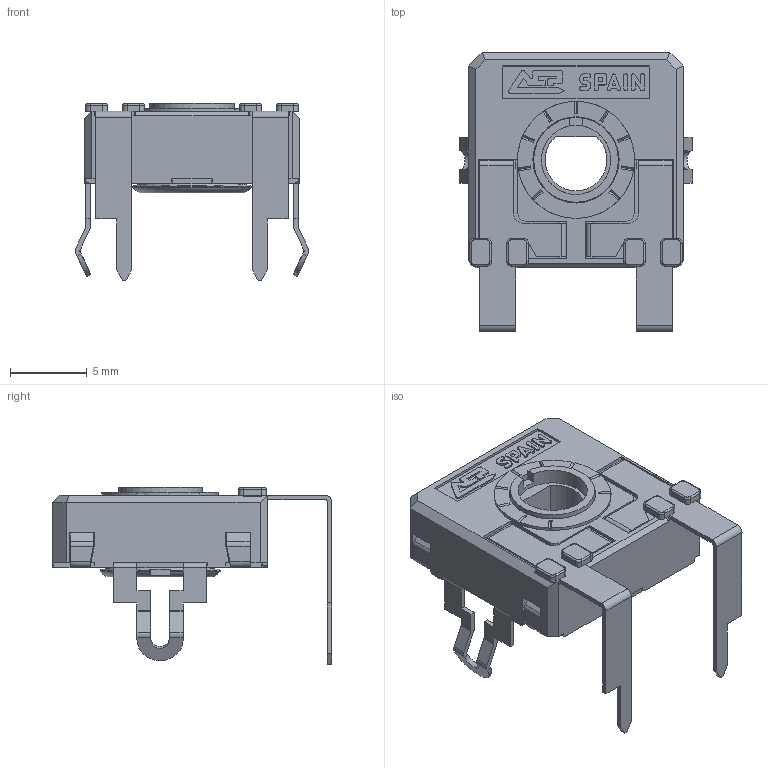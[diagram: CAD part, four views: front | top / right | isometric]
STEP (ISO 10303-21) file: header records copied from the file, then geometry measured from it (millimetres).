
FILE_DESCRIPTION(/* description */ (''),/* implementation_level */ '2;1');
FILE_NAME(/* name */ '\\SERVERACP\intercambio\Ignacio Santa Cecilia\Nueva WEB 2025\CA14 - CE14\CA14FVD11 RT-RO.stp',/* time_stamp */ '2025-06-12T09:29:39+02:00',/* author */ ('CEM'),/* organization */ (''),/* preprocessor_version */ 'ST-DEVELOPER v17',/* originating_system */ 'Autodesk Inventor 2018',/* authorisation */ '');
FILE_SCHEMA (('AUTOMOTIVE_DESIGN { 1 0 10303 214 3 1 1 }'));
Length unit declared in the file: millimetre
Products named in the file (1): CARCASA CA14 PGA
Bounding box: 15.16 x 18.15 x 11.5 mm (x, y, z)
Volume: 545 mm3; surface area: 1588 mm2
Topology: 1 solids, 1 shells, 720 faces, 2045 edges, 1317 vertices
Faces by surface type: plane 525, cylinder 158, torus 23, bspline 8, cone 6
Full cylindrical faces by diameter (mm): 4.5 x1, 5.5 x1, 5.6 x1, 5.752 x1, 6.8 x1, 7.6 x1
Entity records: 23643 total; most frequent: CARTESIAN_POINT 4380, ORIENTED_EDGE 4090, DIRECTION 3831, EDGE_CURVE 2045, LINE 1595, VECTOR 1595, VERTEX_POINT 1317, AXIS2_PLACEMENT_3D 1118
